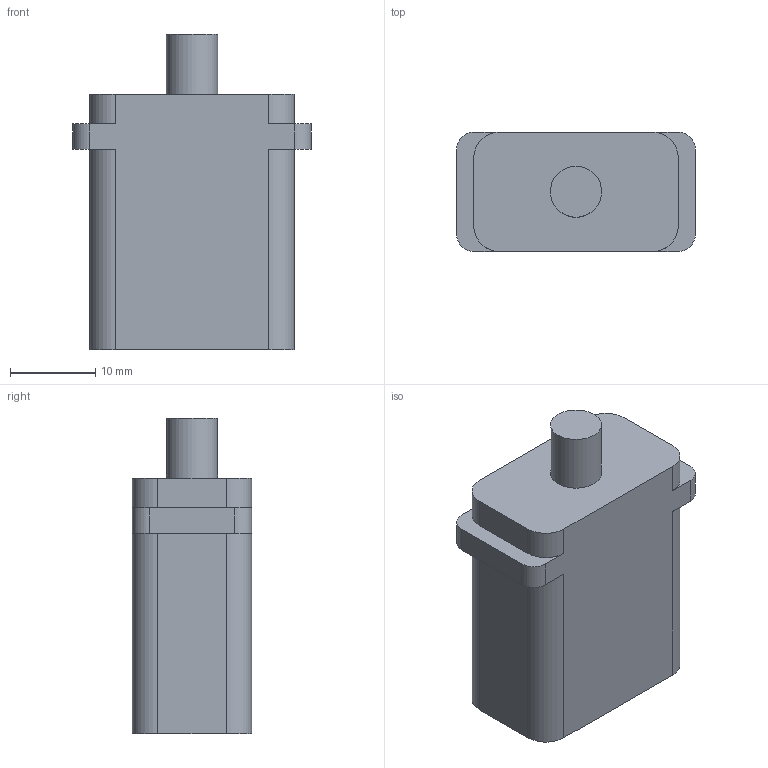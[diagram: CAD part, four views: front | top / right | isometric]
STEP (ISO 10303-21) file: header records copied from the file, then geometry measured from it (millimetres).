
FILE_DESCRIPTION(('Open CASCADE Model'),'2;1');
FILE_NAME('Open CASCADE Shape Model','2026-09-16T16:54:27',('Author'),( 'Open CASCADE'),'Open CASCADE STEP processor 7.8','Open CASCADE 7.8' ,'Unknown');
FILE_SCHEMA(('AUTOMOTIVE_DESIGN { 1 0 10303 214 1 1 1 1 }'));
Length unit declared in the file: millimetre
Products named in the file (1): Open CASCADE STEP translator 7.8 26
Bounding box: 28 x 14 x 37 mm (x, y, z)
Volume: 10227 mm3; surface area: 3063.7 mm2
Topology: 1 solids, 1 shells, 28 faces, 75 edges, 50 vertices
Faces by surface type: plane 15, cylinder 13
Full cylindrical faces by diameter (mm): 6 x1
Entity records: 1886 total; most frequent: CARTESIAN_POINT 360, DIRECTION 293, LINE 165, VECTOR 165, ORIENTED_EDGE 150, PCURVE 150, DEFINITIONAL_REPRESENTATION 150, EDGE_CURVE 75
